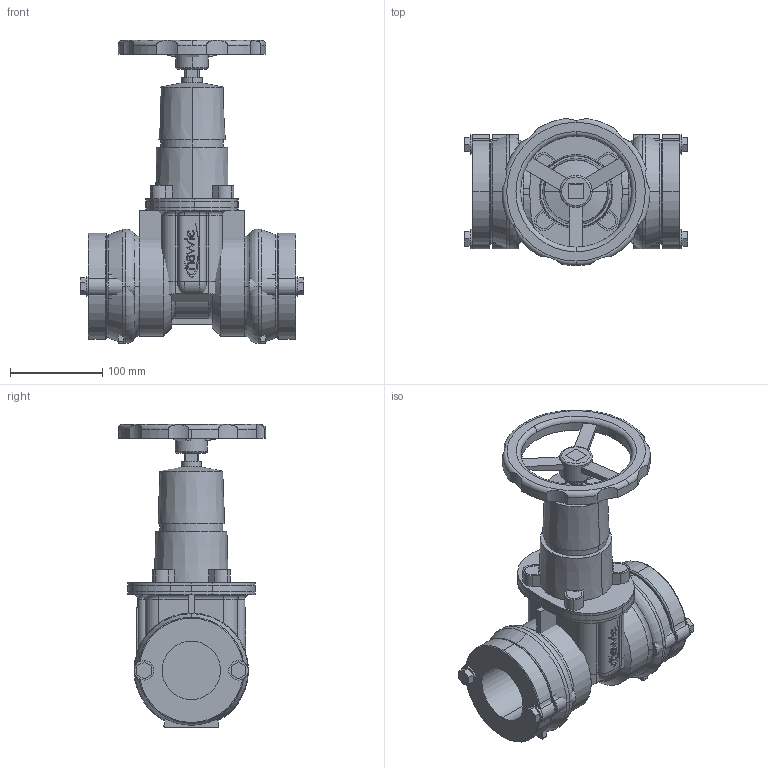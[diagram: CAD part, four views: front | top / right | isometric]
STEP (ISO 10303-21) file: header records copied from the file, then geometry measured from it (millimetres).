
FILE_DESCRIPTION(('STEP AP214'),'1');
FILE_NAME('S:/EK/USER/CAT6/3DHomepage/4040E2/4040E2-PN16-DN50-HANDRAD.STP','2012-04-24T10:02:09',(' '),(' '),'Spatial InterOp 3D',' ',' ');
FILE_SCHEMA(('automotive_design'));
Length unit declared in the file: millimetre
Products named in the file (85): 3D-Objekt
Bounding box: 241.8 x 159.31 x 327.9 mm (x, y, z)
Volume: 3189996.9 mm3; surface area: 466059.3 mm2
Topology: 85 solids, 85 shells, 727 faces, 1635 edges, 1088 vertices
Faces by surface type: plane 387, cylinder 270, torus 56, cone 14
Entity records: 28580 total; most frequent: DIRECTION 3973, CARTESIAN_POINT 3813, ORIENTED_EDGE 3270, EDGE_CURVE 1635, AXIS2_PLACEMENT_3D 1536, VERTEX_POINT 1088, LINE 901, VECTOR 901
